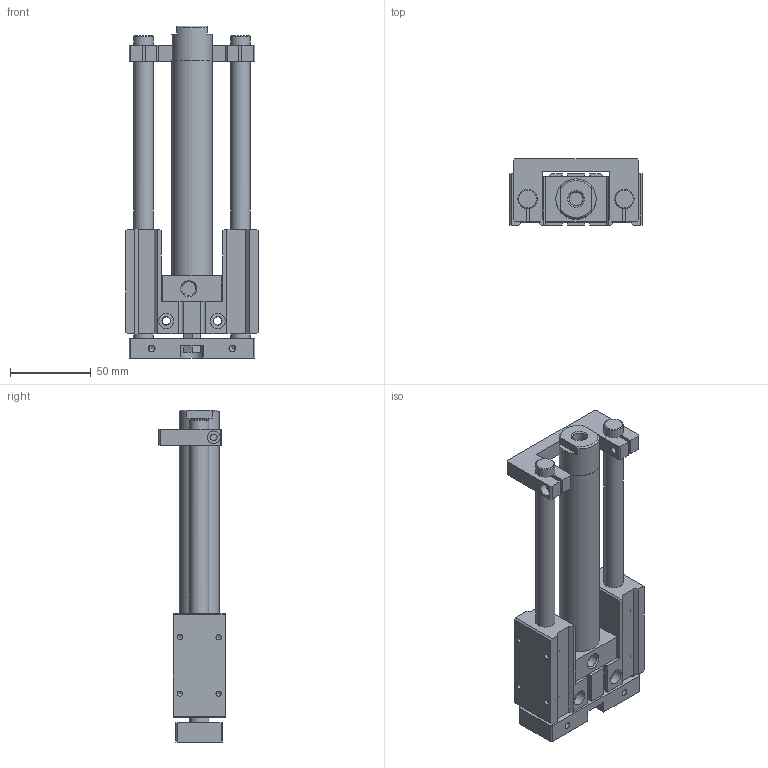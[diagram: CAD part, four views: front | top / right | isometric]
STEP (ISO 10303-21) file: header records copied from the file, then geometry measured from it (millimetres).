
FILE_DESCRIPTION((''),'2;1');
FILE_NAME('I:\3D電子目錄\氣缸\TMB(U)\TMB(U)\TMB(U)20\TMB(U)20x100.stp','2007-10-04T15:01:01',('Administrator'),(''),'Autodesk Inventor 11','Autodesk Inventor 11','');
FILE_SCHEMA(('AUTOMOTIVE_DESIGN { 1 0 10303 214 1 1 1 1 }'));
Length unit declared in the file: millimetre
Products named in the file (1): TMB(U)20
Bounding box: 82 x 41 x 206 mm (x, y, z)
Volume: 259622.5 mm3; surface area: 62763.3 mm2
Topology: 1 solids, 1 shells, 244 faces, 668 edges, 432 vertices
Faces by surface type: plane 139, bspline 50, cone 28, cylinder 25, torus 2
Full cylindrical faces by diameter (mm): 3.242 x4, 4.134 x4, 8 x1, 10 x2, 11 x2, 12 x3, 25 x2
Entity records: 7581 total; most frequent: CARTESIAN_POINT 2093, ORIENTED_EDGE 1088, DIRECTION 1054, EDGE_CURVE 544, VERTEX_POINT 384, EDGE_LOOP 368, AXIS2_PLACEMENT_3D 355, VECTOR 344
